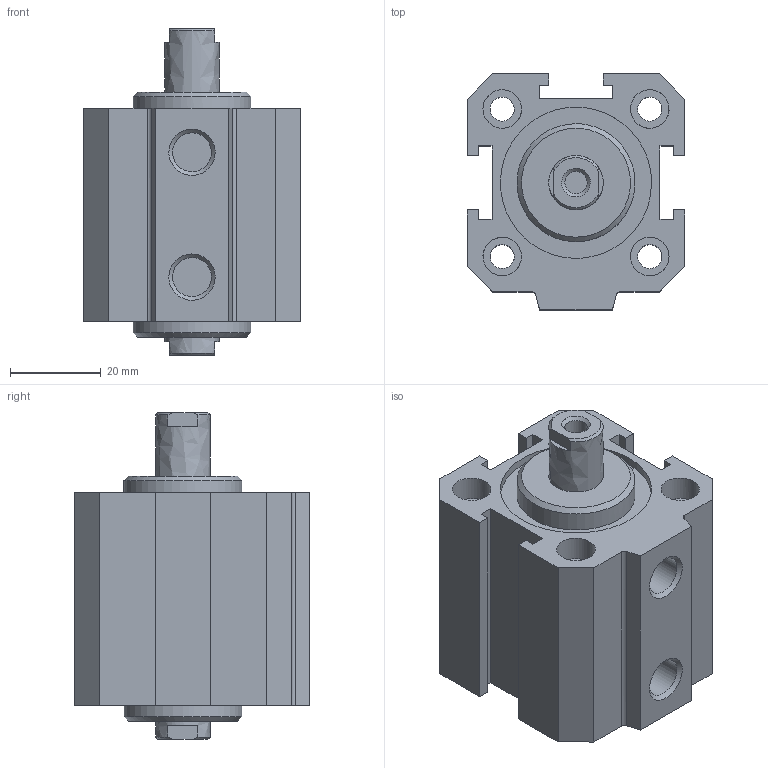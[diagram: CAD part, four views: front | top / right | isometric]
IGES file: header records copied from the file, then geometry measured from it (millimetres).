
Global section: file name: 1514_32_0010; native system: Autodesk Inventor 2014; preprocessor: unknown; author: A. Manieri; date: 20160824.113513; units: millimetre
Bounding box: 48 x 52 x 72 mm (x, y, z)
Volume: 87910.6 mm3; surface area: 30763.2 mm2
Topology: 2 solids, 2 shells, 106 faces, 276 edges, 194 vertices
Faces by surface type: bspline 106
